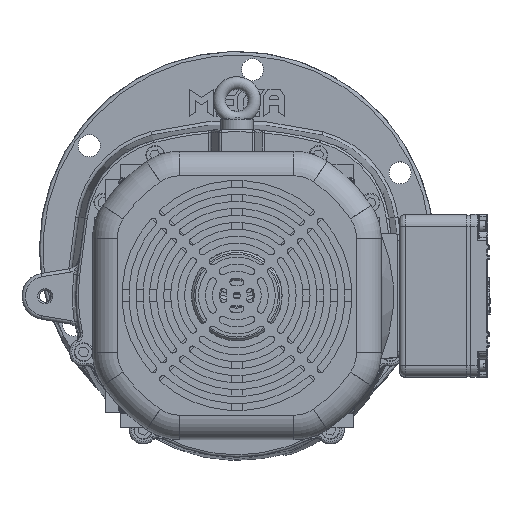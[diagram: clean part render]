
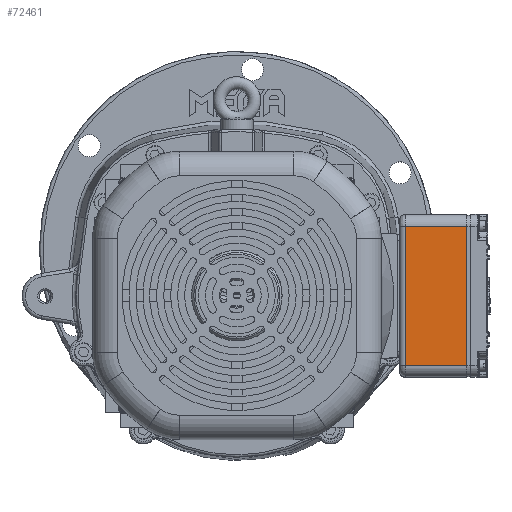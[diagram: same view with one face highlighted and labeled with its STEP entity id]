
A CAD part, top view. The second image highlights one B-rep face of the part: STEP entity #72461.
In plain terms, the highlighted planar face has unit normal (0, 0, 1).
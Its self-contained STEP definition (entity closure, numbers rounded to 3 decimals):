
#5898=PLANE('',#78559);
#9180=FACE_OUTER_BOUND('',#13566,.T.);
#13566=EDGE_LOOP('',(#56766,#56767,#56768,#56769));
#15429=LINE('',#97803,#19695);
#17609=LINE('',#141752,#21875);
#17614=LINE('',#141791,#21880);
#17615=LINE('',#141792,#21881);
#19695=VECTOR('',#80841,10.);
#21875=VECTOR('',#91685,10.);
#21880=VECTOR('',#91710,10.);
#21881=VECTOR('',#91711,10.);
#27365=VERTEX_POINT('',#97800);
#27366=VERTEX_POINT('',#97802);
#31094=VERTEX_POINT('',#141742);
#31096=VERTEX_POINT('',#141748);
#33889=EDGE_CURVE('',#27365,#27366,#15429,.T.);
#40072=EDGE_CURVE('',#31094,#31096,#17609,.T.);
#40084=EDGE_CURVE('',#31094,#27366,#17614,.T.);
#40085=EDGE_CURVE('',#31096,#27365,#17615,.T.);
#56766=ORIENTED_EDGE('',*,*,#40072,.F.);
#56767=ORIENTED_EDGE('',*,*,#40084,.T.);
#56768=ORIENTED_EDGE('',*,*,#33889,.F.);
#56769=ORIENTED_EDGE('',*,*,#40085,.F.);
#72461=ADVANCED_FACE('',(#9180),#5898,.T.);
#78559=AXIS2_PLACEMENT_3D('',#141790,#91708,#91709);
#80841=DIRECTION('',(0.,-1.,0.));
#91685=DIRECTION('',(0.,1.,0.));
#91708=DIRECTION('center_axis',(0.,0.,
1.));
#91709=DIRECTION('ref_axis',(0.,-1.,0.));
#91710=DIRECTION('',(1.,0.,0.));
#91711=DIRECTION('',(1.,0.,0.));
#97800=CARTESIAN_POINT('',(198.131,33.272,243.75));
#97802=CARTESIAN_POINT('',(198.131,-86.728,243.75));
#97803=CARTESIAN_POINT('',(198.131,-86.728,243.75));
#141742=CARTESIAN_POINT('',(145.131,-86.728,243.75));
#141748=CARTESIAN_POINT('',(145.131,33.272,243.75));
#141752=CARTESIAN_POINT('',(145.131,3.272,243.75));
#141790=CARTESIAN_POINT('Origin',(140.131,33.272,243.75));
#141791=CARTESIAN_POINT('',(140.131,-86.728,243.75));
#141792=CARTESIAN_POINT('',(140.131,33.272,243.75));
